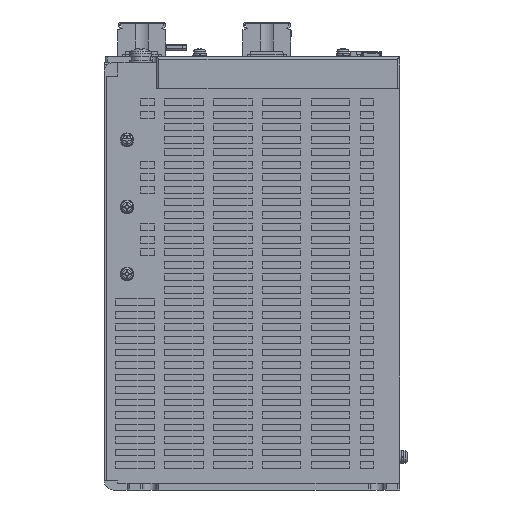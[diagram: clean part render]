
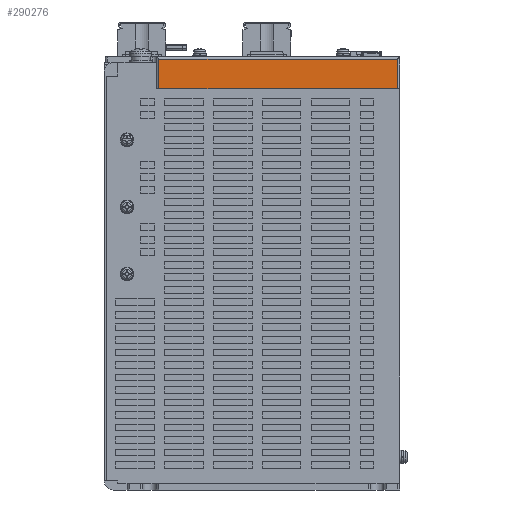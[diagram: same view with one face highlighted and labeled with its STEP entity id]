
A CAD part, front view. The second image highlights one B-rep face of the part: STEP entity #290276.
In plain terms, the highlighted planar face has unit normal (0, -1, 0).
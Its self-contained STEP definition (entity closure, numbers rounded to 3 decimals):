
#10900 = EDGE_CURVE ( 'NONE', #158309, #347034, #33106, .T. ) ;
#12997 = DIRECTION ( 'NONE',  ( 0., 0., -1. ) ) ;
#17175 = VERTEX_POINT ( 'NONE', #168939 ) ;
#33106 = LINE ( 'NONE', #40255, #112410 ) ;
#40255 = CARTESIAN_POINT ( 'NONE',  ( -51.379, -113.446, 460.5 ) ) ;
#60057 = EDGE_CURVE ( 'NONE', #122245, #17175, #211874, .T. ) ;
#64126 = CARTESIAN_POINT ( 'NONE',  ( 53.621, -113.446, 446.5 ) ) ;
#65593 = ORIENTED_EDGE ( 'NONE', *, *, #10900, .T. ) ;
#66137 = DIRECTION ( 'NONE',  ( -1., 0., 0. ) ) ;
#69811 = EDGE_CURVE ( 'NONE', #17175, #158309, #350921, .T. ) ;
#73831 = CARTESIAN_POINT ( 'NONE',  ( 53.621, -113.446, 460.5 ) ) ;
#96966 = FACE_OUTER_BOUND ( 'NONE', #259054, .T. ) ;
#98069 = CARTESIAN_POINT ( 'NONE',  ( 54.621, -113.446, 446.5 ) ) ;
#112410 = VECTOR ( 'NONE', #12997, 1000. ) ;
#113438 = VECTOR ( 'NONE', #218251, 1000. ) ;
#122245 = VERTEX_POINT ( 'NONE', #64126 ) ;
#127958 = AXIS2_PLACEMENT_3D ( 'NONE', #207774, #205968, #66137 ) ;
#133677 = DIRECTION ( 'NONE',  ( 0., 0., 1. ) ) ;
#136755 = CARTESIAN_POINT ( 'NONE',  ( -51.379, -113.446, 446.5 ) ) ;
#138143 = EDGE_CURVE ( 'NONE', #122245, #347034, #236075, .T. ) ;
#158309 = VERTEX_POINT ( 'NONE', #182825 ) ;
#162147 = VECTOR ( 'NONE', #185215, 1000. ) ;
#166369 = ORIENTED_EDGE ( 'NONE', *, *, #69811, .T. ) ;
#168939 = CARTESIAN_POINT ( 'NONE',  ( 53.621, -113.446, 459.5 ) ) ;
#169430 = ORIENTED_EDGE ( 'NONE', *, *, #60057, .T. ) ;
#182825 = CARTESIAN_POINT ( 'NONE',  ( -51.379, -113.446, 459.5 ) ) ;
#185215 = DIRECTION ( 'NONE',  ( -1., 0., 0. ) ) ;
#205968 = DIRECTION ( 'NONE',  ( 0., 1., 0. ) ) ;
#207774 = CARTESIAN_POINT ( 'NONE',  ( 54.621, -113.446, 460.5 ) ) ;
#211357 = PLANE ( 'NONE',  #127958 ) ;
#211874 = LINE ( 'NONE', #73831, #330013 ) ;
#218251 = DIRECTION ( 'NONE',  ( -1., 0., 0. ) ) ;
#236075 = LINE ( 'NONE', #98069, #162147 ) ;
#259054 = EDGE_LOOP ( 'NONE', ( #260677, #169430, #166369, #65593 ) ) ;
#260677 = ORIENTED_EDGE ( 'NONE', *, *, #138143, .F. ) ;
#290276 = ADVANCED_FACE ( 'NONE', ( #96966 ), #211357, .F. ) ;
#330013 = VECTOR ( 'NONE', #133677, 1000. ) ;
#347034 = VERTEX_POINT ( 'NONE', #136755 ) ;
#350921 = LINE ( 'NONE', #356291, #113438 ) ;
#356291 = CARTESIAN_POINT ( 'NONE',  ( 54.621, -113.446, 459.5 ) ) ;
